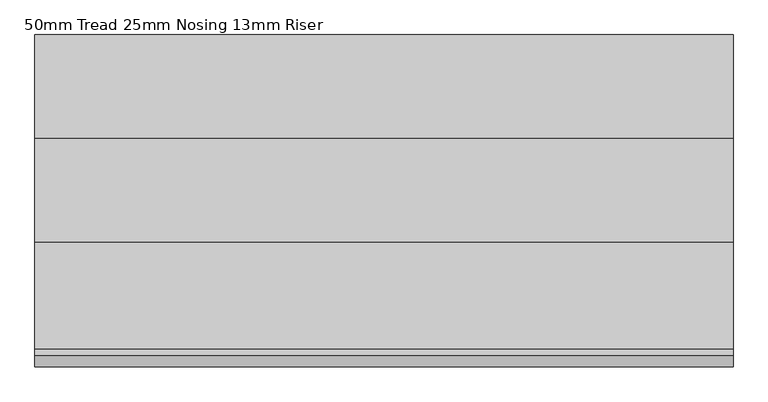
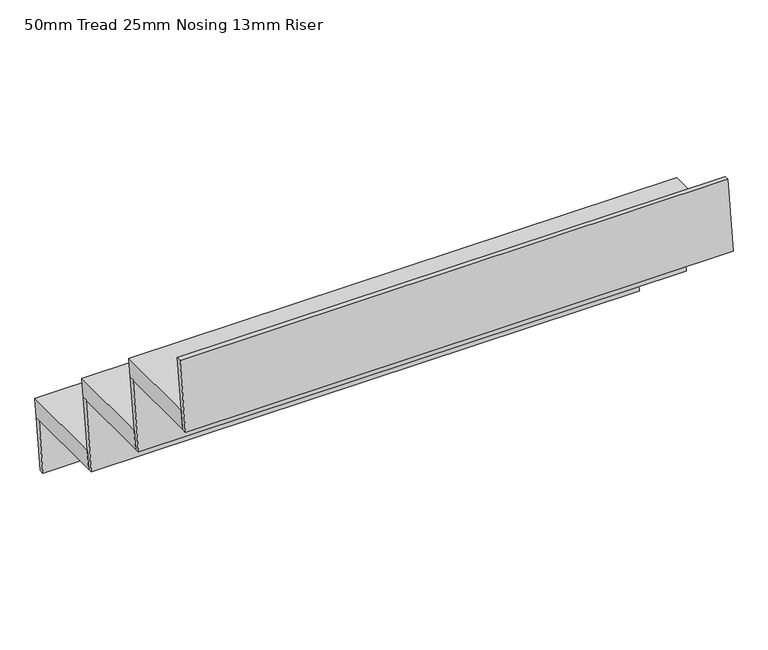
"""IFC4 building model written with IfcOpenShell, lengths in millimetres: stair flight geometry, 50mm Tread 25mm Nosing 13mm Riser."""

import ifcopenshell
import ifcopenshell.guid

model = None  # the IFC model being written
_history = None  # IfcOwnerHistory: only IFC2X3 demands one
_inside = {}  # id of a spatial element -> (the spatial element, [elements in it])
_under = {}  # id of a project, library or spatial element -> (it, [spatial elements below it])
_declared = {}  # id of a project -> (the project, [libraries it declares])
_typed = {}  # id of a type object -> (the type object, [elements of that type])
_made_of = {}  # id of a material, layer set ... -> (it, [elements and type objects made of it])


def new_model(schema):
    """Start an empty IFC model of exactly this schema.

    Asked for "IFC4X3", IfcOpenShell would pick the latest addendum, in which some entities
    have other attributes; the version numbers below select the first issue.
    IFC2X3 requires an IfcOwnerHistory on every rooted entity: one is made here for all.
    """
    global model, _history
    if schema == "IFC4X3":
        model = ifcopenshell.file(schema_version=(4, 3, 0, 0))
    else:
        model = ifcopenshell.file(schema=schema)
    _inside.clear()
    _under.clear()
    _declared.clear()
    _typed.clear()
    _made_of.clear()
    _history = None
    if model.schema == "IFC2X3":
        org = make("IfcOrganization", Name="unknown")
        user = make(
            "IfcPersonAndOrganization",
            ThePerson=make("IfcPerson", FamilyName="unknown"),
            TheOrganization=org,
        )
        app = make(
            "IfcApplication",
            ApplicationDeveloper=org,
            Version="unknown",
            ApplicationFullName="unknown",
            ApplicationIdentifier="unknown",
        )
        _history = make(
            "IfcOwnerHistory",
            OwningUser=user,
            OwningApplication=app,
            ChangeAction="ADDED",
            CreationDate=0,
        )
    return model


def make(cls, **values):
    """One entity of the class cls with the attributes given. An attribute that is None is left unset."""
    return model.create_entity(
        cls, **{name: value for name, value in values.items() if value is not None}
    )


def rooted(cls, **values):
    """An entity with a GlobalId (a new one), such as an element, a storey or a relation."""
    return make(cls, GlobalId=ifcopenshell.guid.new(), OwnerHistory=_history, **values)


def si_unit(unit_type, name, prefix=None):
    """IfcSIUnit, for example si_unit("LENGTHUNIT", "METRE", prefix="MILLI")."""
    return make("IfcSIUnit", UnitType=unit_type, Prefix=prefix, Name=name)


def assignment(units):
    """IfcUnitAssignment: the units of a project."""
    return None if units is None else make("IfcUnitAssignment", Units=units)


def point(xyz):
    """IfcCartesianPoint."""
    return None if xyz is None else make("IfcCartesianPoint", Coordinates=xyz)


def direction(xyz):
    """IfcDirection."""
    return None if xyz is None else make("IfcDirection", DirectionRatios=xyz)


def frame(location, z_axis=None, x_axis=None):
    """IfcAxis2Placement3D, a coordinate frame: its origin and axes. An axis left out is left unset."""
    return make(
        "IfcAxis2Placement3D",
        Location=point(location),
        Axis=direction(z_axis),
        RefDirection=direction(x_axis),
    )


def origin():
    """The frame at (0, 0, 0) with its axes left unset."""
    return frame((0.0, 0.0, 0.0))


def place(relative_to, where):
    """IfcLocalPlacement: puts the frame where relative to a parent placement (None: the world)."""
    return make(
        "IfcLocalPlacement", PlacementRelTo=relative_to, RelativePlacement=where
    )


def context(
    kind, dimensions, precision=None, world=None, true_north=None, identifier=None
):
    """IfcGeometricRepresentationContext, for example the 3D "Model" context."""
    return make(
        "IfcGeometricRepresentationContext",
        ContextIdentifier=identifier,
        ContextType=kind,
        CoordinateSpaceDimension=dimensions,
        Precision=precision,
        WorldCoordinateSystem=world,
        TrueNorth=true_north,
    )


def project(units=None, contexts=None):
    """IfcProject with its units and contexts."""
    return rooted(
        "IfcProject",
        Name="project",
        RepresentationContexts=contexts,
        UnitsInContext=assignment(units),
    )


def spatial(cls, under=None, at=None, **own):
    """A site, building, storey or space (cls), placed at a placement, below another one or the project."""
    s = rooted(cls, ObjectPlacement=at, **own)
    if under is not None:
        _under.setdefault(under.id(), (under, []))[1].append(s)
    return s


def polyline(points):
    """IfcPolyline through the points."""
    return make("IfcPolyline", Points=[point(p) for p in points])


def outline(outer, holes=None, kind="AREA"):
    """IfcArbitraryClosedProfileDef: a profile drawn as a closed curve; with holes, ...WithVoids."""
    if holes is None:
        return make("IfcArbitraryClosedProfileDef", ProfileType=kind, OuterCurve=outer)
    return make(
        "IfcArbitraryProfileDefWithVoids",
        ProfileType=kind,
        OuterCurve=outer,
        InnerCurves=holes,
    )


def extrude(swept, where, along, depth):
    """IfcExtrudedAreaSolid: the profile swept, set in the frame where, extruded along a direction by depth."""
    return make(
        "IfcExtrudedAreaSolid",
        SweptArea=swept,
        Position=where,
        ExtrudedDirection=direction(along),
        Depth=depth,
    )


def shape(context_of_items, identifier, shape_type, items):
    """IfcShapeRepresentation: the items that make up one representation, for example the "Body"."""
    return make(
        "IfcShapeRepresentation",
        ContextOfItems=context_of_items,
        RepresentationIdentifier=identifier,
        RepresentationType=shape_type,
        Items=items,
    )


def source(mapping_origin, context_of_items, identifier, shape_type, items):
    """IfcRepresentationMap: a shape defined once, which mapped items show again and again."""
    return make(
        "IfcRepresentationMap",
        MappingOrigin=mapping_origin,
        MappedRepresentation=shape(context_of_items, identifier, shape_type, items),
    )


def transform(
    local_origin,
    x_axis=None,
    y_axis=None,
    z_axis=None,
    scale=None,
    scale2=None,
    scale3=None,
    uniform=True,
):
    """IfcCartesianTransformationOperator3D, or its non-uniform kind. x_axis, y_axis, z_axis: its Axis1, 2, 3."""
    if uniform:
        return make(
            "IfcCartesianTransformationOperator3D",
            Axis1=direction(x_axis),
            Axis2=direction(y_axis),
            LocalOrigin=point(local_origin),
            Scale=scale,
            Axis3=direction(z_axis),
        )
    return make(
        "IfcCartesianTransformationOperator3DnonUniform",
        Axis1=direction(x_axis),
        Axis2=direction(y_axis),
        LocalOrigin=point(local_origin),
        Scale=scale,
        Axis3=direction(z_axis),
        Scale2=scale2,
        Scale3=scale3,
    )


def mapped(mapping_source, mapping_target):
    """IfcMappedItem: shows the shape of a source again, moved by a transform."""
    return make(
        "IfcMappedItem", MappingSource=mapping_source, MappingTarget=mapping_target
    )


def made_of(thing, what):
    """Note that an element or type object is made of a material, layer set ...; save() writes the relation."""
    if what is not None:
        _made_of.setdefault(what.id(), (what, []))[1].append(thing)
    return thing


def element(
    cls,
    number,
    at=None,
    inside=None,
    cuts=None,
    type_object=None,
    material=None,
    context=None,
    identifier="Body",
    shape_type=None,
    held_by="IfcProductDefinitionShape",
    body=None,
    shapes=None,
    **own,
):
    """One element of the class cls, such as IfcWall. Its Tag is "e" and its number.

    at: its placement. inside: the storey or other place that contains it. cuts: it is an
    opening in that element (IfcRelVoidsElement). A single representation is given by context,
    identifier, shape_type and body (its items); several are given by shapes. held_by: the class
    of the entity that holds the representations. save() writes the other relations.
    """
    e = rooted(cls, Tag="e%d" % number, ObjectPlacement=at, **own)
    if body is not None:
        shapes = [shape(context, identifier, shape_type, body)]
    if shapes is not None:
        e.Representation = make(held_by, Representations=shapes)
    if inside is not None:
        _inside.setdefault(inside.id(), (inside, []))[1].append(e)
    if cuts is not None:
        rooted(
            "IfcRelVoidsElement", RelatingBuildingElement=cuts, RelatedOpeningElement=e
        )
    if type_object is not None:
        _typed.setdefault(type_object.id(), (type_object, []))[1].append(e)
    return made_of(e, material)


def aggregate(whole, parts):
    """IfcRelAggregates: a whole, such as a stair, and the parts it consists of."""
    return rooted("IfcRelAggregates", RelatingObject=whole, RelatedObjects=parts)


def save(model, path):
    """Write the relations noted so far, then the file.

    IfcRelAggregates (storeys below a building ...), IfcRelContainedInSpatialStructure (elements
    in a storey), IfcRelDefinesByType, IfcRelAssociatesMaterial and IfcRelDeclares: one each for
    every whole, place, type object, material and project.
    """
    for whole, parts in _under.values():
        aggregate(whole, parts)
    for where, things in _inside.values():
        rooted(
            "IfcRelContainedInSpatialStructure",
            RelatedElements=things,
            RelatingStructure=where,
        )
    for kind, things in _typed.values():
        rooted("IfcRelDefinesByType", RelatedObjects=things, RelatingType=kind)
    for what, things in _made_of.values():
        rooted("IfcRelAssociatesMaterial", RelatedObjects=things, RelatingMaterial=what)
    for by, libraries in _declared.values():
        rooted("IfcRelDeclares", RelatingContext=by, RelatedDefinitions=libraries)
    model.write(path)


def stair_flight_50mm_tread_25mm_nosing_13mm_riser_26bbdbce(model_context):
    return source(origin(), model_context, "Body", "SweptSolid", [
        extrude(outline(polyline([(3266.4167, 190.5), (3511.55, 190.5), (3504.9883202, 140.5), (3259.8550202, 140.5), (3266.4167, 190.5)])), frame((-5886.45, 0.0, 0.0), z_axis=(1.0, 0.0, 0.0), x_axis=(0.0, 1.0, 0.0)), (0.0, 0.0, 1.0), 1479.55),
        extrude(outline(polyline([(3504.9883202, 140.5), (3486.55, 0.0), (3473.9428204, 0.0), (3492.3811406, 140.5), (3504.9883202, 140.5)])), frame((-5886.45, 0.0, 0.0), z_axis=(1.0, 0.0, 0.0), x_axis=(0.0, 1.0, 0.0)), (0.0, 0.0, 1.0), 1479.55),
        extrude(outline(polyline([(3284.8550202, 331.0), (3259.8550202, 140.5), (3247.2478406, 140.5), (3272.2478406, 331.0), (3284.8550202, 331.0)])), frame((-5886.45, 0.0, 0.0), z_axis=(1.0, 0.0, 0.0), x_axis=(0.0, 1.0, 0.0)), (0.0, 0.0, 1.0), 1479.55),
        extrude(outline(polyline([(3046.2833, 381.0), (3291.4167, 381.0), (3284.8550202, 331.0), (3039.7216202, 331.0), (3046.2833, 381.0)])), frame((-5886.45, 0.0, 0.0), z_axis=(1.0, 0.0, 0.0), x_axis=(0.0, 1.0, 0.0)), (0.0, 0.0, 1.0), 1479.55),
        extrude(outline(polyline([(3064.7216202, 521.5), (3039.7216202, 331.0), (3027.1144406, 331.0), (3052.1144406, 521.5), (3064.7216202, 521.5)])), frame((-5886.45, 0.0, 0.0), z_axis=(1.0, 0.0, 0.0), x_axis=(0.0, 1.0, 0.0)), (0.0, 0.0, 1.0), 1479.55),
        extrude(outline(polyline([(2844.5883202, 712.0), (2819.5883202, 521.5), (2806.9811406, 521.5), (2831.9811406, 712.0), (2844.5883202, 712.0)])), frame((-5886.45, 0.0, 0.0), z_axis=(1.0, 0.0, 0.0), x_axis=(0.0, 1.0, 0.0)), (0.0, 0.0, 1.0), 1479.55),
        extrude(outline(polyline([(2826.15, 571.5), (3071.2833, 571.5), (3064.7216202, 521.5), (2819.5883202, 521.5), (2826.15, 571.5)])), frame((-5886.45, 0.0, 0.0), z_axis=(1.0, 0.0, 0.0), x_axis=(0.0, 1.0, 0.0)), (0.0, 0.0, 1.0), 1479.55),
    ])


if __name__ == "__main__":
    model = new_model("IFC4")
    model_context = context("Model", 3, world=origin())
    ifc_project = project(units=[si_unit("LENGTHUNIT", "METRE", prefix="MILLI")], contexts=[model_context])
    site = spatial("IfcSite", under=ifc_project)
    building = spatial("IfcBuilding", under=site)
    placement = place(None, origin())
    stair_flight_50mm_tread_25mm_nosing_13mm_riser_shape = stair_flight_50mm_tread_25mm_nosing_13mm_riser_26bbdbce(model_context)
    element("IfcStairFlight", 1, ObjectType="50mm Tread 25mm Nosing 13mm Riser", at=placement, inside=building, context=model_context, shape_type="MappedRepresentation", body=[
        mapped(stair_flight_50mm_tread_25mm_nosing_13mm_riser_shape, transform((0.0, 0.0, 0.0), x_axis=(1.0, 0.0, 0.0), y_axis=(0.0, 1.0, 0.0), z_axis=(0.0, 0.0, 1.0))),
    ])
    save(model, "model.ifc")
